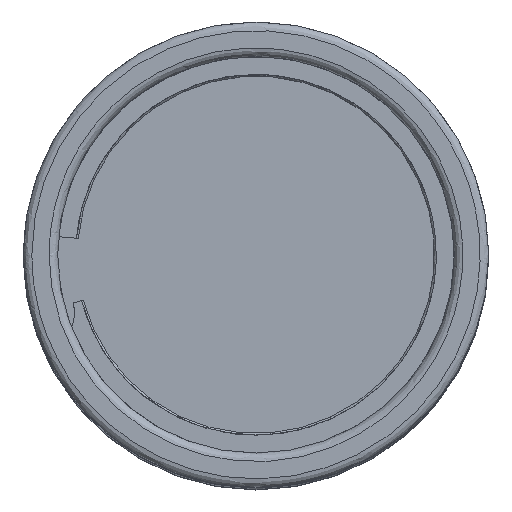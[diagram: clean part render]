
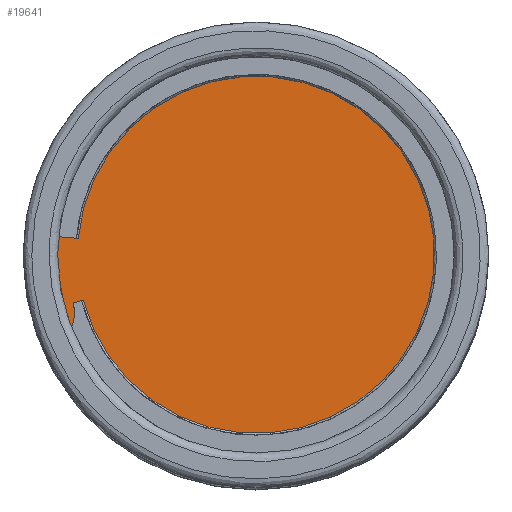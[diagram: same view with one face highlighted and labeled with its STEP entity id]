
A CAD part, top view. The second image highlights one B-rep face of the part: STEP entity #19641.
In plain terms, the highlighted planar face has unit normal (0, 0, 1).
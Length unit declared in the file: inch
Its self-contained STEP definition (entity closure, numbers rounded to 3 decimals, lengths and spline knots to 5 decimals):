
#298 = CARTESIAN_POINT ( 'NONE',  ( -0.70029, 0.06446, 2.387 ) ) ;
#630 = PLANE ( 'NONE',  #8535 ) ;
#1186 = EDGE_LOOP ( 'NONE', ( #9975, #12032, #7276, #14204, #7723 ) ) ;
#2109 = CARTESIAN_POINT ( 'NONE',  ( -0.21748, -1.3076, 2.387 ) ) ;
#2323 = EDGE_CURVE ( 'NONE', #18494, #3384, #17585, .T. ) ;
#2455 = DIRECTION ( 'NONE',  ( -0.967, -0.254, 0. ) ) ;
#2672 = CARTESIAN_POINT ( 'NONE',  ( 0., 0., 2.387 ) ) ;
#3123 = EDGE_CURVE ( 'NONE', #3384, #19769, #23399, .T. ) ;
#3384 = VERTEX_POINT ( 'NONE', #11182 ) ;
#4784 = CARTESIAN_POINT ( 'NONE',  ( -0.62511, 0.05754, 2.387 ) ) ;
#5093 = CARTESIAN_POINT ( 'NONE',  ( -0.6365, -0.16747, 2.387 ) ) ;
#5589 = CARTESIAN_POINT ( 'NONE',  ( 0.69521, 0.106, 2.387 ) ) ;
#5810 = CIRCLE ( 'NONE', #19314, 0.13933 ) ;
#6135 = VERTEX_POINT ( 'NONE', #5093 ) ;
#6476 = CARTESIAN_POINT ( 'NONE',  ( -0.70651, 0.06503, 2.387 ) ) ;
#7276 = ORIENTED_EDGE ( 'NONE', *, *, #11683, .F. ) ;
#7723 = ORIENTED_EDGE ( 'NONE', *, *, #2323, .F. ) ;
#7883 = CARTESIAN_POINT ( 'NONE',  ( 0., 0., 2.387 ) ) ;
#7999 = FACE_BOUND ( 'NONE', #1186, .T. ) ;
#8535 = AXIS2_PLACEMENT_3D ( 'NONE', #7883, #13441, #18618 ) ;
#8664 = CARTESIAN_POINT ( 'NONE',  ( 0.71363, -1.00954, 2.387 ) ) ;
#8703 = VECTOR ( 'NONE', #2455, 39.37008 ) ;
#8983 =( BOUNDED_CURVE ( )  B_SPLINE_CURVE ( 3, ( #9716, #2109, #22136, #5589, #13335, #17058, #22616 ),
 .UNSPECIFIED., .F., .T. ) 
 B_SPLINE_CURVE_WITH_KNOTS ( ( 4, 3, 4 ),
 ( 0., 0.5, 1. ),
 .UNSPECIFIED. ) 
 CURVE ( )  GEOMETRIC_REPRESENTATION_ITEM ( )  RATIONAL_B_SPLINE_CURVE ( ( 1., 0.414, 0.414, 1., 0.414, 0.414, 1. ) ) 
 REPRESENTATION_ITEM ( '' )  );
#9456 = LINE ( 'NONE', #15123, #8703 ) ;
#9716 = CARTESIAN_POINT ( 'NONE',  ( -0.64926, -0.27023, 2.387 ) ) ;
#9975 = ORIENTED_EDGE ( 'NONE', *, *, #23256, .F. ) ;
#10360 = CARTESIAN_POINT ( 'NONE',  ( 0.53758, 1.11331, 2.387 ) ) ;
#10754 = EDGE_LOOP ( 'NONE', ( #16599 ) ) ;
#10889 = DIRECTION ( 'NONE',  ( -0.083, 0.997, 0. ) ) ;
#11182 = CARTESIAN_POINT ( 'NONE',  ( -0.62511, 0.05754, 2.387 ) ) ;
#11683 = EDGE_CURVE ( 'NONE', #19769, #6135, #9456, .T. ) ;
#12021 = VERTEX_POINT ( 'NONE', #17689 ) ;
#12032 = ORIENTED_EDGE ( 'NONE', *, *, #18955, .T. ) ;
#12100 = CARTESIAN_POINT ( 'NONE',  ( -0.60709, -0.15973, 2.387 ) ) ;
#12159 = CARTESIAN_POINT ( 'NONE',  ( -0.52748, 1.11813, 2.387 ) ) ;
#13335 = CARTESIAN_POINT ( 'NONE',  ( 0.52585, 1.2168, 2.387 ) ) ;
#13441 = DIRECTION ( 'NONE',  ( 0., 0., 1. ) ) ;
#13660 = DIRECTION ( 'NONE',  ( 0., 0., -1. ) ) ;
#13851 = DIRECTION ( 'NONE',  ( 0.996, -0.092, 0. ) ) ;
#14204 = ORIENTED_EDGE ( 'NONE', *, *, #3123, .F. ) ;
#14264 = CARTESIAN_POINT ( 'NONE',  ( -0.64926, -0.27023, 2.387 ) ) ;
#15123 = CARTESIAN_POINT ( 'NONE',  ( 0., 0., 2.387 ) ) ;
#16599 = ORIENTED_EDGE ( 'NONE', *, *, #23677, .F. ) ;
#17058 = CARTESIAN_POINT ( 'NONE',  ( -0.5973, 1.18337, 2.387 ) ) ;
#17267 = DIRECTION ( 'NONE',  ( 1., 0., 0. ) ) ;
#17585 = LINE ( 'NONE', #6476, #22727 ) ;
#17689 = CARTESIAN_POINT ( 'NONE',  ( 0.715, 0., 2.387 ) ) ;
#18494 = VERTEX_POINT ( 'NONE', #298 ) ;
#18618 = DIRECTION ( 'NONE',  ( 1., 0., 0. ) ) ;
#18734 = FACE_OUTER_BOUND ( 'NONE', #10754, .T. ) ;
#18955 = EDGE_CURVE ( 'NONE', #19055, #6135, #5810, .T. ) ;
#19055 = VERTEX_POINT ( 'NONE', #14264 ) ;
#19314 = AXIS2_PLACEMENT_3D ( 'NONE', #23297, #21972, #10889 ) ;
#19633 = CARTESIAN_POINT ( 'NONE',  ( 0.6256, 0.05188, 2.387 ) ) ;
#19641 = ADVANCED_FACE ( 'NONE', ( #18734, #7999 ), #630, .T. ) ;
#19769 = VERTEX_POINT ( 'NONE', #12100 ) ;
#20443 = CIRCLE ( 'NONE', #21657, 0.715 ) ;
#20972 = CARTESIAN_POINT ( 'NONE',  ( -0.60709, -0.15973, 2.387 ) ) ;
#21657 = AXIS2_PLACEMENT_3D ( 'NONE', #2672, #13660, #17267 ) ;
#21972 = DIRECTION ( 'NONE',  ( 0., 0., 1. ) ) ;
#22136 = CARTESIAN_POINT ( 'NONE',  ( 0.86458, -1.0048, 2.387 ) ) ;
#22616 = CARTESIAN_POINT ( 'NONE',  ( -0.70029, 0.06446, 2.387 ) ) ;
#22727 = VECTOR ( 'NONE', #13851, 39.37008 ) ;
#22785 = CARTESIAN_POINT ( 'NONE',  ( -0.33609, -1.18974, 2.387 ) ) ;
#23256 = EDGE_CURVE ( 'NONE', #19055, #18494, #8983, .T. ) ;
#23297 = CARTESIAN_POINT ( 'NONE',  ( -0.77125, -0.20292, 2.387 ) ) ;
#23399 =( BOUNDED_CURVE ( )  B_SPLINE_CURVE ( 3, ( #4784, #12159, #10360, #19633, #8664, #22785, #20972 ),
 .UNSPECIFIED., .F., .T. ) 
 B_SPLINE_CURVE_WITH_KNOTS ( ( 4, 3, 4 ),
 ( 0., 0.5, 1. ),
 .UNSPECIFIED. ) 
 CURVE ( )  GEOMETRIC_REPRESENTATION_ITEM ( )  RATIONAL_B_SPLINE_CURVE ( ( 1., 0.391, 0.391, 1., 0.391, 0.391, 1. ) ) 
 REPRESENTATION_ITEM ( '' )  );
#23677 = EDGE_CURVE ( 'NONE', #12021, #12021, #20443, .T. ) ;
